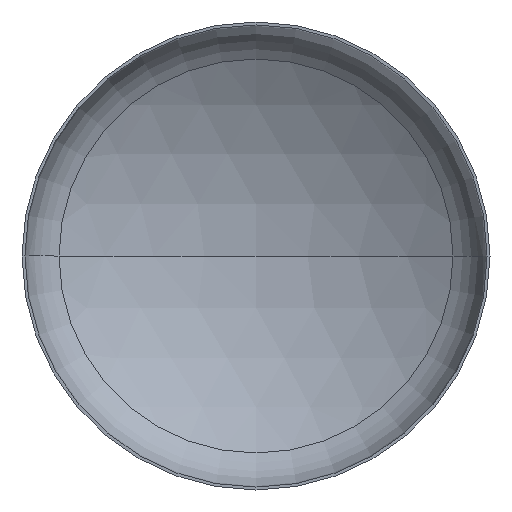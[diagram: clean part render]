
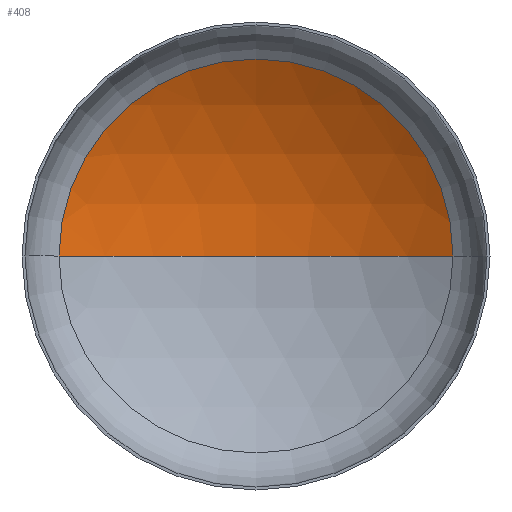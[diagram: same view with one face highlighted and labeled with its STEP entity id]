
A CAD part, front view. The second image highlights one B-rep face of the part: STEP entity #408.
In plain terms, the highlighted spherical face has radius 3200 mm.
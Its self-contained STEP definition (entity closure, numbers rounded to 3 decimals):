
#4 = CARTESIAN_POINT ( 'NONE',  ( 0., -2123.323, 0. ) ) ;
#6 = VERTEX_POINT ( 'NONE', #359 ) ;
#16 = EDGE_LOOP ( 'NONE', ( #146, #106, #89 ) ) ;
#29 = VERTEX_POINT ( 'NONE', #283 ) ;
#57 = AXIS2_PLACEMENT_3D ( 'NONE', #4, #380, #237 ) ;
#65 = AXIS2_PLACEMENT_3D ( 'NONE', #260, #153, #286 ) ;
#70 = AXIS2_PLACEMENT_3D ( 'NONE', #186, #188, #264 ) ;
#89 = ORIENTED_EDGE ( 'NONE', *, *, #135, .T. ) ;
#99 = VERTEX_POINT ( 'NONE', #288 ) ;
#106 = ORIENTED_EDGE ( 'NONE', *, *, #138, .T. ) ;
#135 = EDGE_CURVE ( 'NONE', #6, #99, #173, .T. ) ;
#138 = EDGE_CURVE ( 'NONE', #29, #6, #369, .T. ) ;
#140 = EDGE_CURVE ( 'NONE', #29, #99, #363, .T. ) ;
#146 = ORIENTED_EDGE ( 'NONE', *, *, #140, .F. ) ;
#153 = DIRECTION ( 'NONE',  ( 0., 0., -1. ) ) ;
#163 = CARTESIAN_POINT ( 'NONE',  ( 0., -2123.323, 0. ) ) ;
#173 = CIRCLE ( 'NONE', #70, 1683.559 ) ;
#176 = SPHERICAL_SURFACE ( 'NONE', #267, 3200. ) ;
#184 = FACE_OUTER_BOUND ( 'NONE', #16, .T. ) ;
#186 = CARTESIAN_POINT ( 'NONE',  ( 0., 598.005, 0. ) ) ;
#188 = DIRECTION ( 'NONE',  ( 0., -1., 0. ) ) ;
#237 = DIRECTION ( 'NONE',  ( 1., 0., 0. ) ) ;
#260 = CARTESIAN_POINT ( 'NONE',  ( 0., -2123.323, 0. ) ) ;
#264 = DIRECTION ( 'NONE',  ( 1., 0., 0. ) ) ;
#267 = AXIS2_PLACEMENT_3D ( 'NONE', #163, #294, #292 ) ;
#283 = CARTESIAN_POINT ( 'NONE',  ( 0., 1076.677, 0. ) ) ;
#286 = DIRECTION ( 'NONE',  ( -1., 0., 0. ) ) ;
#288 = CARTESIAN_POINT ( 'NONE',  ( -1683.559, 598.005, 0. ) ) ;
#292 = DIRECTION ( 'NONE',  ( -1., 0., 0. ) ) ;
#294 = DIRECTION ( 'NONE',  ( 0., 0., -1. ) ) ;
#359 = CARTESIAN_POINT ( 'NONE',  ( 1683.559, 598.005, 0. ) ) ;
#363 = CIRCLE ( 'NONE', #57, 3200. ) ;
#369 = CIRCLE ( 'NONE', #65, 3200. ) ;
#380 = DIRECTION ( 'NONE',  ( 0., 0., 1. ) ) ;
#408 = ADVANCED_FACE ( 'NONE', ( #184 ), #176, .F. ) ;
